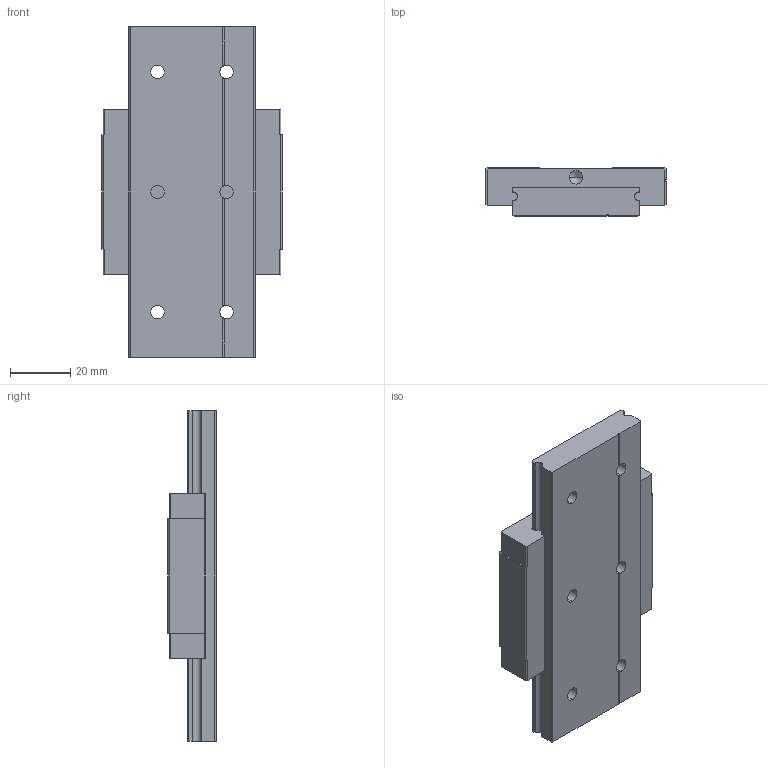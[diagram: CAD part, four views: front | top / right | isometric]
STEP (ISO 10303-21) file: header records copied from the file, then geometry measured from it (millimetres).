
FILE_DESCRIPTION (( 'STEP AP214' ), '1' );
FILE_NAME ('2.1059 Lineaarikelkka MGW15CE.STEP', '2025-09-19T06:57:45', ( '' ), ( '' ), 'SwSTEP 2.0', 'SolidWorks 2025', '' );
FILE_SCHEMA (( 'AUTOMOTIVE_DESIGN' ));
Length unit declared in the file: millimetre
Products named in the file (1): 2.1059 Lineaarikelkka MGW15CE
Bounding box: 60 x 16 x 110 mm (x, y, z)
Volume: 67859 mm3; surface area: 23411.9 mm2
Topology: 2 solids, 2 shells, 116 faces, 315 edges, 200 vertices
Faces by surface type: plane 56, cylinder 48, cone 12
Entity records: 5117 total; most frequent: CARTESIAN_POINT 842, DIRECTION 627, ORIENTED_EDGE 606, EDGE_CURVE 303, AXIS2_PLACEMENT_3D 213, VECTOR 201, LINE 201, VERTEX_POINT 200
